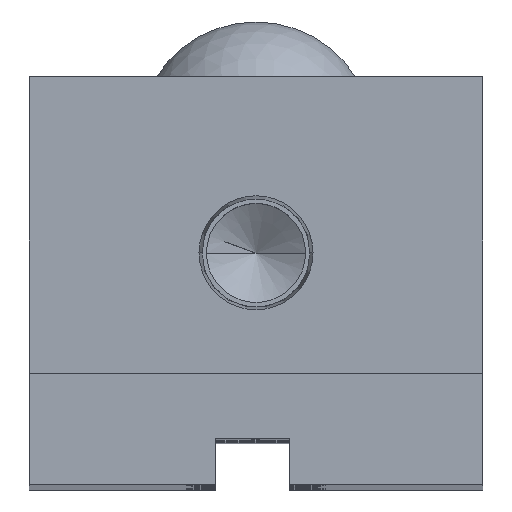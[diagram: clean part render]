
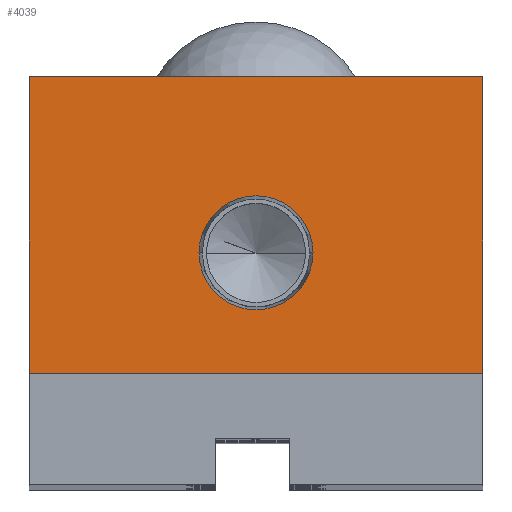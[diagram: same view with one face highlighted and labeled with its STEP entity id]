
A CAD part, top view. The second image highlights one B-rep face of the part: STEP entity #4039.
In plain terms, the highlighted planar face has unit normal (0, 0, 1).
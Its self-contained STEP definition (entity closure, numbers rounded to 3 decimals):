
#75 = VECTOR ( 'NONE', #4388, 1000. ) ;
#88 = VECTOR ( 'NONE', #4065, 1000. ) ;
#162 = CARTESIAN_POINT ( 'NONE',  ( -24.5, 32., 0. ) ) ;
#244 = EDGE_CURVE ( 'NONE', #4049, #6230, #3221, .T. ) ;
#453 = EDGE_CURVE ( 'NONE', #3253, #962, #6873, .T. ) ;
#784 = VERTEX_POINT ( 'NONE', #1619 ) ;
#923 = EDGE_CURVE ( 'NONE', #7598, #784, #2556, .T. ) ;
#962 = VERTEX_POINT ( 'NONE', #2731 ) ;
#1011 = EDGE_LOOP ( 'NONE', ( #1188, #1128 ) ) ;
#1128 = ORIENTED_EDGE ( 'NONE', *, *, #6411, .F. ) ;
#1160 = FACE_BOUND ( 'NONE', #1011, .T. ) ;
#1188 = ORIENTED_EDGE ( 'NONE', *, *, #923, .F. ) ;
#1424 = CARTESIAN_POINT ( 'NONE',  ( 0., 13., 0. ) ) ;
#1433 = DIRECTION ( 'NONE',  ( 0., 0., 1. ) ) ;
#1619 = CARTESIAN_POINT ( 'NONE',  ( -6.154, 13., 0. ) ) ;
#1792 = CARTESIAN_POINT ( 'NONE',  ( 24.5, 32., 0. ) ) ;
#1837 = EDGE_CURVE ( 'NONE', #962, #4049, #6611, .T. ) ;
#2060 = DIRECTION ( 'NONE',  ( 1., 0., 0. ) ) ;
#2556 = CIRCLE ( 'NONE', #4023, 6.154 ) ;
#2633 = FACE_OUTER_BOUND ( 'NONE', #7508, .T. ) ;
#2731 = CARTESIAN_POINT ( 'NONE',  ( 24.5, 32., 0. ) ) ;
#3221 = LINE ( 'NONE', #4694, #88 ) ;
#3253 = VERTEX_POINT ( 'NONE', #4473 ) ;
#3322 = CARTESIAN_POINT ( 'NONE',  ( -24.5, 32., 0. ) ) ;
#3917 = AXIS2_PLACEMENT_3D ( 'NONE', #6443, #7723, #3970 ) ;
#3970 = DIRECTION ( 'NONE',  ( -1., 0., 0. ) ) ;
#4023 = AXIS2_PLACEMENT_3D ( 'NONE', #5210, #1433, #5828 ) ;
#4039 = ADVANCED_FACE ( 'NONE', ( #1160, #2633 ), #7091, .F. ) ;
#4049 = VERTEX_POINT ( 'NONE', #3322 ) ;
#4065 = DIRECTION ( 'NONE',  ( 0., -1., 0. ) ) ;
#4311 = DIRECTION ( 'NONE',  ( 0., 1., 0. ) ) ;
#4388 = DIRECTION ( 'NONE',  ( 1., 0., 0. ) ) ;
#4473 = CARTESIAN_POINT ( 'NONE',  ( 24.5, 0., 0. ) ) ;
#4552 = VECTOR ( 'NONE', #7717, 1000. ) ;
#4582 = ORIENTED_EDGE ( 'NONE', *, *, #244, .T. ) ;
#4694 = CARTESIAN_POINT ( 'NONE',  ( -24.5, 0., 0. ) ) ;
#4999 = VECTOR ( 'NONE', #4311, 1000. ) ;
#5210 = CARTESIAN_POINT ( 'NONE',  ( 0., 13., 0. ) ) ;
#5454 = CARTESIAN_POINT ( 'NONE',  ( 6.154, 13., 0. ) ) ;
#5553 = ORIENTED_EDGE ( 'NONE', *, *, #7776, .T. ) ;
#5817 = DIRECTION ( 'NONE',  ( 0., 0., 1. ) ) ;
#5826 = CARTESIAN_POINT ( 'NONE',  ( -24.5, 0., 0. ) ) ;
#5828 = DIRECTION ( 'NONE',  ( 1., 0., 0. ) ) ;
#5861 = ORIENTED_EDGE ( 'NONE', *, *, #1837, .T. ) ;
#6230 = VERTEX_POINT ( 'NONE', #5826 ) ;
#6302 = CIRCLE ( 'NONE', #6835, 6.154 ) ;
#6411 = EDGE_CURVE ( 'NONE', #784, #7598, #6302, .T. ) ;
#6443 = CARTESIAN_POINT ( 'NONE',  ( 0., 0., 0. ) ) ;
#6554 = LINE ( 'NONE', #8157, #75 ) ;
#6611 = LINE ( 'NONE', #162, #4552 ) ;
#6835 = AXIS2_PLACEMENT_3D ( 'NONE', #1424, #5817, #2060 ) ;
#6873 = LINE ( 'NONE', #1792, #4999 ) ;
#6984 = ORIENTED_EDGE ( 'NONE', *, *, #453, .T. ) ;
#7091 = PLANE ( 'NONE',  #3917 ) ;
#7508 = EDGE_LOOP ( 'NONE', ( #4582, #5553, #6984, #5861 ) ) ;
#7598 = VERTEX_POINT ( 'NONE', #5454 ) ;
#7717 = DIRECTION ( 'NONE',  ( -1., 0., 0. ) ) ;
#7723 = DIRECTION ( 'NONE',  ( 0., 0., -1. ) ) ;
#7776 = EDGE_CURVE ( 'NONE', #6230, #3253, #6554, .T. ) ;
#8157 = CARTESIAN_POINT ( 'NONE',  ( 24.5, 0., 0. ) ) ;
